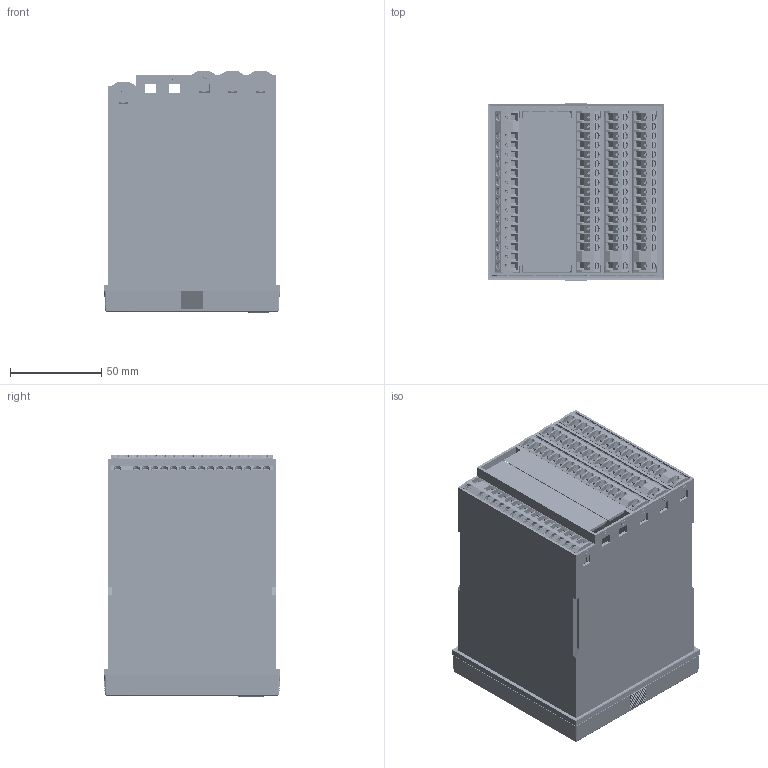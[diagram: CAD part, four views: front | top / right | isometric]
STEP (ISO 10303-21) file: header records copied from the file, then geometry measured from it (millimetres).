
FILE_DESCRIPTION (( 'STEP AP214' ), '1' );
FILE_NAME ('KS98-2-C SIMPLIED.STEP', '2019-04-11T19:08:29', ( '' ), ( '' ), 'SwSTEP 2.0', 'SolidWorks 2017', '' );
FILE_SCHEMA (( 'AUTOMOTIVE_DESIGN' ));
Length unit declared in the file: millimetre
Products named in the file (10): KS98-2 FRONT PANEL ASSY; KS98-2 FASCIA_KS98-2; Frontglas_2; KS98 CASE; KS98-2-C SIMPLIED; KS98 CASE-B; FRONT GLASS; KS98-2 CASE; 4012-141-58563 Screw Type (A B C); KS98-2 BLUE PLUG
Assembly tree (12 placements, depth 4):
  KS98-2-C SIMPLIED
    KS98-2 FASCIA_KS98-2
    KS98 CASE
      KS98-2 CASE
      KS98 CASE-B
    KS98-2 FRONT PANEL ASSY
      FRONT GLASS
        Frontglas_2
      KS98-2 BLUE PLUG
    4012-141-58563 Screw Type (A B C)  x4
Bounding box: 96 x 97 x 132.19 mm (x, y, z)
Volume: 280408.6 mm3; surface area: 216661.4 mm2
Topology: 138 solids, 138 shells, 9131 faces, 24249 edges, 15348 vertices
Faces by surface type: plane 5984, cylinder 1635, cone 772, bspline 736, torus 4
Entity records: 125609 total; most frequent: CARTESIAN_POINT 36747, ORIENTED_EDGE 14726, DIRECTION 11163, EDGE_CURVE 7363, VECTOR 4983, LINE 4983, VERTEX_POINT 4710, AXIS2_PLACEMENT_3D 3090
